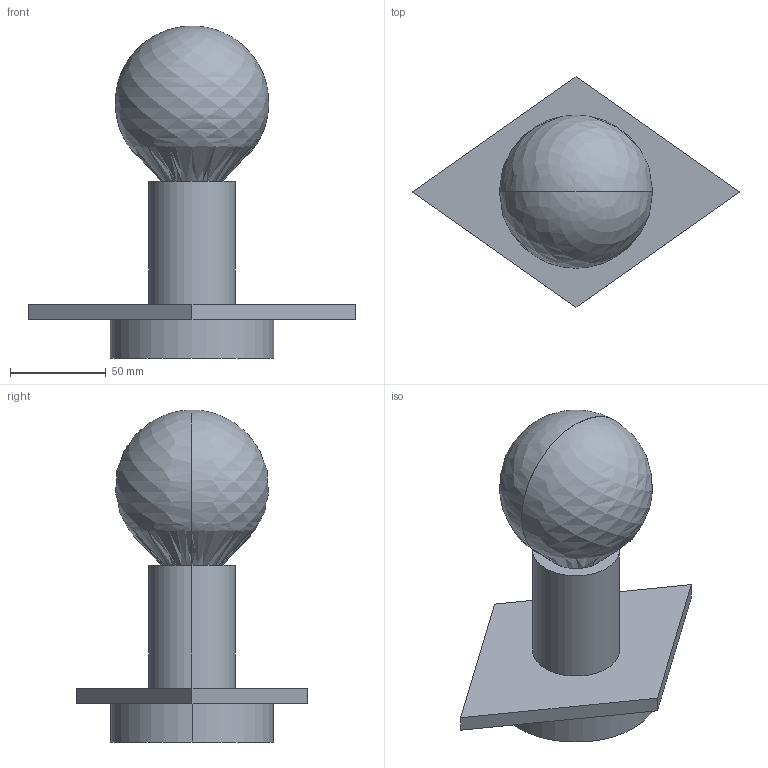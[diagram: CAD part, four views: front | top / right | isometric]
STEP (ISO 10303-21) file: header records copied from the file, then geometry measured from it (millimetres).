
FILE_DESCRIPTION(/* description */ (''),/* implementation_level */ '2;1');
FILE_NAME(/* name */ 'ILKW_TEACUP_4A_Table_3D',/* time_stamp */ '2026-08-28T17:58:20+09:00',/* author */ (''),/* organization */ (''),/* preprocessor_version */ 'ST-DEVELOPER v19.2',/* originating_system */ 'Rhino 8.21',/* authorisation */ '');
FILE_SCHEMA (('CONFIG_CONTROL_DESIGN'));
Length unit declared in the file: millimetre
Products named in the file (1): Document
Bounding box: 170 x 120 x 172.93 mm (x, y, z)
Surface area: 55932.3 mm2 (no closed solid volume)
Topology: 0 solids, 12 shells, 14 faces, 50 edges, 44 vertices
Faces by surface type: plane 8, cylinder 4, bspline 2
Entity records: 1042 total; most frequent: CARTESIAN_POINT 600, ORIENTED_EDGE 52, EDGE_CURVE 48, DIRECTION 48, VERTEX_POINT 44, AXIS2_PLACEMENT_3D 30, B_SPLINE_CURVE_WITH_KNOTS 24, EDGE_LOOP 17
